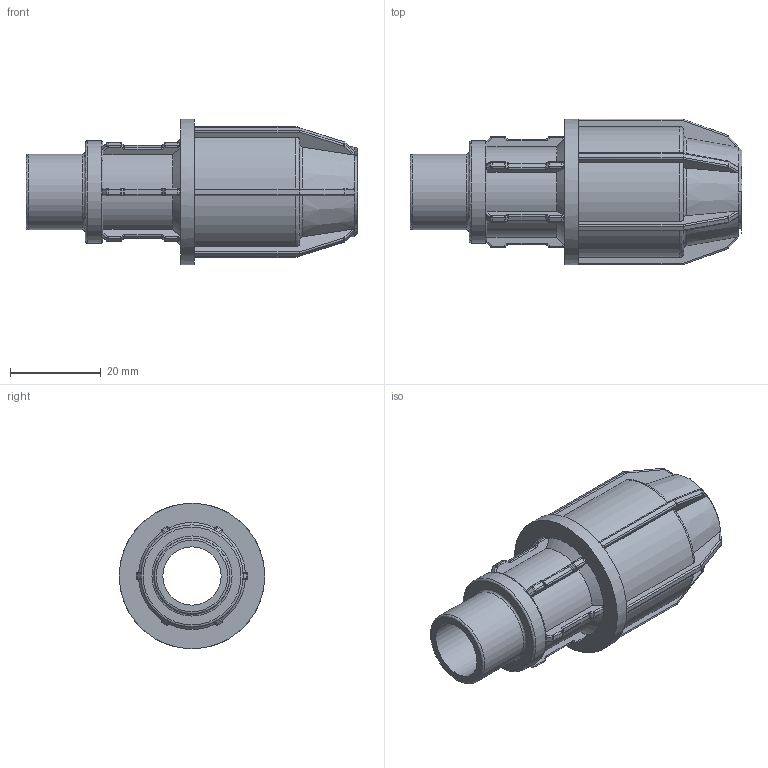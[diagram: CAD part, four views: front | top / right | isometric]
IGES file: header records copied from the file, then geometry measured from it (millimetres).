
Global section: file name: 140200016003.ipt; native system: Autodesk Inventor 2015; preprocessor: unknown; author: KIM; date: 20180409.130924; units: millimetre
Bounding box: 73 x 32 x 32 mm (x, y, z)
Volume: 19313.4 mm3; surface area: 11191.3 mm2
Topology: 1 solids, 1 shells, 467 faces, 1169 edges, 698 vertices
Faces by surface type: cylinder 171, plane 159, revolution 130, cone 7
Full cylindrical faces by diameter (mm): 16.662 x1, 22.494 x1, 32 x1
